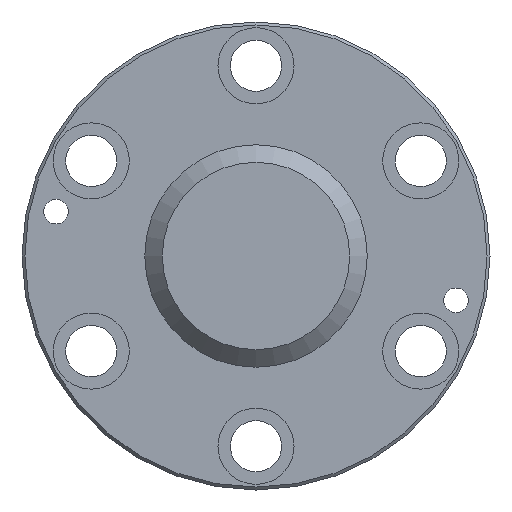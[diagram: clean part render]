
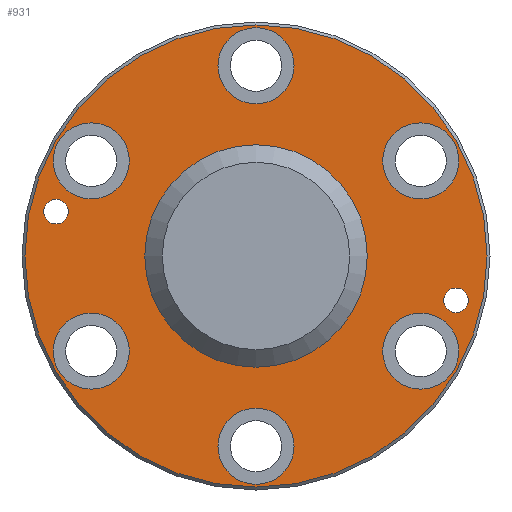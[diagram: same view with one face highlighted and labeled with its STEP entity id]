
A CAD part, left-side view. The second image highlights one B-rep face of the part: STEP entity #931.
In plain terms, the highlighted planar face has unit normal (-1, 0, 0).
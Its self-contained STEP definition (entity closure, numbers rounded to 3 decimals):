
#22=FACE_BOUND('',#155,.T.);
#23=FACE_BOUND('',#156,.T.);
#24=FACE_BOUND('',#157,.T.);
#25=FACE_BOUND('',#158,.T.);
#26=FACE_BOUND('',#159,.T.);
#27=FACE_BOUND('',#160,.T.);
#28=FACE_BOUND('',#161,.T.);
#29=FACE_BOUND('',#162,.T.);
#30=FACE_BOUND('',#163,.T.);
#65=PLANE('',#1043);
#97=FACE_OUTER_BOUND('',#154,.T.);
#154=EDGE_LOOP('',(#689));
#155=EDGE_LOOP('',(#690));
#156=EDGE_LOOP('',(#691,#692));
#157=EDGE_LOOP('',(#693,#694));
#158=EDGE_LOOP('',(#695,#696));
#159=EDGE_LOOP('',(#697,#698));
#160=EDGE_LOOP('',(#699,#700));
#161=EDGE_LOOP('',(#701,#702));
#162=EDGE_LOOP('',(#703,#704));
#163=EDGE_LOOP('',(#705,#706));
#304=CIRCLE('',#1031,19.97);
#312=CIRCLE('',#1044,78.95);
#313=CIRCLE('',#1045,13.);
#314=CIRCLE('',#1046,13.);
#315=CIRCLE('',#1047,13.);
#316=CIRCLE('',#1048,13.);
#317=CIRCLE('',#1049,13.);
#318=CIRCLE('',#1050,13.);
#319=CIRCLE('',#1051,13.);
#320=CIRCLE('',#1052,13.);
#321=CIRCLE('',#1053,13.);
#322=CIRCLE('',#1054,13.);
#323=CIRCLE('',#1055,13.);
#324=CIRCLE('',#1056,13.);
#325=CIRCLE('',#1057,4.188);
#326=CIRCLE('',#1058,4.188);
#327=CIRCLE('',#1059,4.188);
#328=CIRCLE('',#1060,4.188);
#396=VERTEX_POINT('',#1543);
#403=VERTEX_POINT('',#1565);
#404=VERTEX_POINT('',#1567);
#405=VERTEX_POINT('',#1568);
#406=VERTEX_POINT('',#1571);
#407=VERTEX_POINT('',#1572);
#408=VERTEX_POINT('',#1575);
#409=VERTEX_POINT('',#1576);
#410=VERTEX_POINT('',#1579);
#411=VERTEX_POINT('',#1580);
#412=VERTEX_POINT('',#1583);
#413=VERTEX_POINT('',#1584);
#414=VERTEX_POINT('',#1587);
#415=VERTEX_POINT('',#1588);
#416=VERTEX_POINT('',#1591);
#417=VERTEX_POINT('',#1592);
#418=VERTEX_POINT('',#1595);
#419=VERTEX_POINT('',#1596);
#500=EDGE_CURVE('',#396,#396,#304,.T.);
#510=EDGE_CURVE('',#403,#403,#312,.T.);
#511=EDGE_CURVE('',#404,#405,#313,.T.);
#512=EDGE_CURVE('',#405,#404,#314,.T.);
#513=EDGE_CURVE('',#406,#407,#315,.T.);
#514=EDGE_CURVE('',#407,#406,#316,.T.);
#515=EDGE_CURVE('',#408,#409,#317,.T.);
#516=EDGE_CURVE('',#409,#408,#318,.T.);
#517=EDGE_CURVE('',#410,#411,#319,.T.);
#518=EDGE_CURVE('',#411,#410,#320,.T.);
#519=EDGE_CURVE('',#412,#413,#321,.T.);
#520=EDGE_CURVE('',#413,#412,#322,.T.);
#521=EDGE_CURVE('',#414,#415,#323,.T.);
#522=EDGE_CURVE('',#415,#414,#324,.T.);
#523=EDGE_CURVE('',#416,#417,#325,.T.);
#524=EDGE_CURVE('',#417,#416,#326,.T.);
#525=EDGE_CURVE('',#418,#419,#327,.T.);
#526=EDGE_CURVE('',#419,#418,#328,.T.);
#689=ORIENTED_EDGE('',*,*,#510,.F.);
#690=ORIENTED_EDGE('',*,*,#500,.T.);
#691=ORIENTED_EDGE('',*,*,#511,.T.);
#692=ORIENTED_EDGE('',*,*,#512,.T.);
#693=ORIENTED_EDGE('',*,*,#513,.T.);
#694=ORIENTED_EDGE('',*,*,#514,.T.);
#695=ORIENTED_EDGE('',*,*,#515,.T.);
#696=ORIENTED_EDGE('',*,*,#516,.T.);
#697=ORIENTED_EDGE('',*,*,#517,.T.);
#698=ORIENTED_EDGE('',*,*,#518,.T.);
#699=ORIENTED_EDGE('',*,*,#519,.T.);
#700=ORIENTED_EDGE('',*,*,#520,.T.);
#701=ORIENTED_EDGE('',*,*,#521,.T.);
#702=ORIENTED_EDGE('',*,*,#522,.T.);
#703=ORIENTED_EDGE('',*,*,#523,.T.);
#704=ORIENTED_EDGE('',*,*,#524,.T.);
#705=ORIENTED_EDGE('',*,*,#525,.T.);
#706=ORIENTED_EDGE('',*,*,#526,.T.);
#931=ADVANCED_FACE('',(#97,#22,#23,#24,#25,#26,#27,#28,#29,#30),#65,.T.);
#1031=AXIS2_PLACEMENT_3D('',#1544,#1242,#1243);
#1043=AXIS2_PLACEMENT_3D('',#1564,#1268,#1269);
#1044=AXIS2_PLACEMENT_3D('',#1566,#1270,#1271);
#1045=AXIS2_PLACEMENT_3D('',#1569,#1272,#1273);
#1046=AXIS2_PLACEMENT_3D('',#1570,#1274,#1275);
#1047=AXIS2_PLACEMENT_3D('',#1573,#1276,#1277);
#1048=AXIS2_PLACEMENT_3D('',#1574,#1278,#1279);
#1049=AXIS2_PLACEMENT_3D('',#1577,#1280,#1281);
#1050=AXIS2_PLACEMENT_3D('',#1578,#1282,#1283);
#1051=AXIS2_PLACEMENT_3D('',#1581,#1284,#1285);
#1052=AXIS2_PLACEMENT_3D('',#1582,#1286,#1287);
#1053=AXIS2_PLACEMENT_3D('',#1585,#1288,#1289);
#1054=AXIS2_PLACEMENT_3D('',#1586,#1290,#1291);
#1055=AXIS2_PLACEMENT_3D('',#1589,#1292,#1293);
#1056=AXIS2_PLACEMENT_3D('',#1590,#1294,#1295);
#1057=AXIS2_PLACEMENT_3D('',#1593,#1296,#1297);
#1058=AXIS2_PLACEMENT_3D('',#1594,#1298,#1299);
#1059=AXIS2_PLACEMENT_3D('',#1597,#1300,#1301);
#1060=AXIS2_PLACEMENT_3D('',#1598,#1302,#1303);
#1242=DIRECTION('center_axis',(1.,0.,0.));
#1243=DIRECTION('ref_axis',(0.,0.,-1.));
#1268=DIRECTION('center_axis',(-1.,0.,0.));
#1269=DIRECTION('ref_axis',(0.,0.,1.));
#1270=DIRECTION('center_axis',(1.,0.,0.));
#1271=DIRECTION('ref_axis',(0.,-1.,0.));
#1272=DIRECTION('center_axis',(1.,0.,0.));
#1273=DIRECTION('ref_axis',(0.,0.866,0.5));
#1274=DIRECTION('center_axis',(1.,0.,0.));
#1275=DIRECTION('ref_axis',(0.,0.866,0.5));
#1276=DIRECTION('center_axis',(1.,0.,0.));
#1277=DIRECTION('ref_axis',(0.,0.866,-0.5));
#1278=DIRECTION('center_axis',(1.,0.,0.));
#1279=DIRECTION('ref_axis',(0.,0.866,-0.5));
#1280=DIRECTION('center_axis',(1.,0.,0.));
#1281=DIRECTION('ref_axis',(0.,0.,
-1.));
#1282=DIRECTION('center_axis',(1.,0.,0.));
#1283=DIRECTION('ref_axis',(0.,0.,
-1.));
#1284=DIRECTION('center_axis',(1.,0.,0.));
#1285=DIRECTION('ref_axis',(0.,-0.866,-0.5));
#1286=DIRECTION('center_axis',(1.,0.,0.));
#1287=DIRECTION('ref_axis',(0.,-0.866,-0.5));
#1288=DIRECTION('center_axis',(1.,0.,0.));
#1289=DIRECTION('ref_axis',(0.,-0.866,0.5));
#1290=DIRECTION('center_axis',(1.,0.,0.));
#1291=DIRECTION('ref_axis',(0.,-0.866,0.5));
#1292=DIRECTION('center_axis',(1.,0.,0.));
#1293=DIRECTION('ref_axis',(0.,0.,1.));
#1294=DIRECTION('center_axis',(1.,0.,0.));
#1295=DIRECTION('ref_axis',(0.,0.,1.));
#1296=DIRECTION('center_axis',(1.,0.,0.));
#1297=DIRECTION('ref_axis',(0.,0.,1.));
#1298=DIRECTION('center_axis',(1.,0.,0.));
#1299=DIRECTION('ref_axis',(0.,0.,1.));
#1300=DIRECTION('center_axis',(1.,0.,0.));
#1301=DIRECTION('ref_axis',(0.,0.,1.));
#1302=DIRECTION('center_axis',(1.,0.,0.));
#1303=DIRECTION('ref_axis',(0.,0.,1.));
#1543=CARTESIAN_POINT('',(0.,0.,19.97));
#1544=CARTESIAN_POINT('Origin',(0.,0.,0.));
#1564=CARTESIAN_POINT('Origin',(0.,50.725,0.));
#1565=CARTESIAN_POINT('',(0.,78.95,0.));
#1566=CARTESIAN_POINT('Origin',(0.,0.,0.));
#1567=CARTESIAN_POINT('',(0.,-45.033,-26.));
#1568=CARTESIAN_POINT('',(0.,-67.55,-39.));
#1569=CARTESIAN_POINT('Origin',(0.,-56.292,
-32.5));
#1570=CARTESIAN_POINT('Origin',(0.,-56.292,
-32.5));
#1571=CARTESIAN_POINT('',(0.,-45.033,26.));
#1572=CARTESIAN_POINT('',(0.,-67.55,39.));
#1573=CARTESIAN_POINT('Origin',(0.,-56.292,
32.5));
#1574=CARTESIAN_POINT('Origin',(0.,-56.292,
32.5));
#1575=CARTESIAN_POINT('',(0.,0.,52.));
#1576=CARTESIAN_POINT('',(0.,0.,78.));
#1577=CARTESIAN_POINT('Origin',(0.,0.,
65.));
#1578=CARTESIAN_POINT('Origin',(0.,0.,
65.));
#1579=CARTESIAN_POINT('',(0.,45.033,26.));
#1580=CARTESIAN_POINT('',(0.,67.55,39.));
#1581=CARTESIAN_POINT('Origin',(0.,56.292,
32.5));
#1582=CARTESIAN_POINT('Origin',(0.,56.292,
32.5));
#1583=CARTESIAN_POINT('',(0.,45.033,-26.));
#1584=CARTESIAN_POINT('',(0.,67.55,-39.));
#1585=CARTESIAN_POINT('Origin',(0.,56.292,
-32.5));
#1586=CARTESIAN_POINT('Origin',(0.,56.292,
-32.5));
#1587=CARTESIAN_POINT('',(0.,0.,-52.));
#1588=CARTESIAN_POINT('',(0.,0.,-78.));
#1589=CARTESIAN_POINT('Origin',(0.,0.,-65.));
#1590=CARTESIAN_POINT('Origin',(0.,0.,-65.));
#1591=CARTESIAN_POINT('',(0.,68.341,19.339));
#1592=CARTESIAN_POINT('',(0.,68.341,10.963));
#1593=CARTESIAN_POINT('Origin',(0.,68.341,15.151));
#1594=CARTESIAN_POINT('Origin',(0.,68.341,15.151));
#1595=CARTESIAN_POINT('',(0.,-68.341,-10.963));
#1596=CARTESIAN_POINT('',(0.,-68.341,-19.339));
#1597=CARTESIAN_POINT('Origin',(0.,-68.341,-15.151));
#1598=CARTESIAN_POINT('Origin',(0.,-68.341,-15.151));
